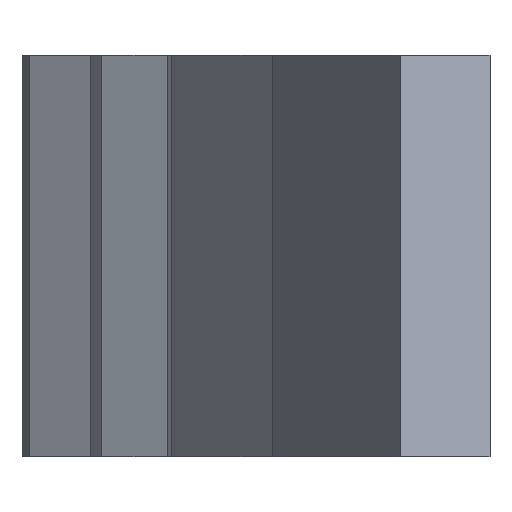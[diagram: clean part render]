
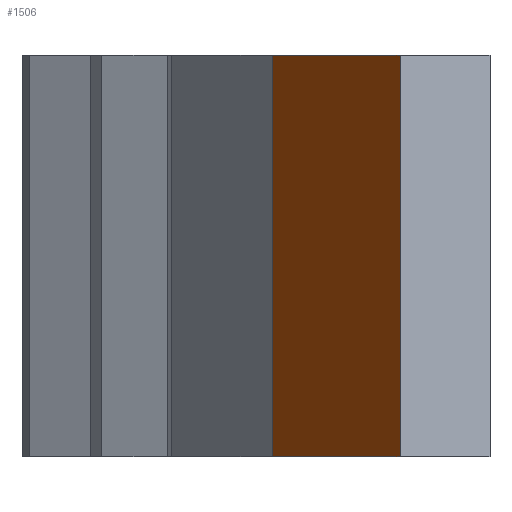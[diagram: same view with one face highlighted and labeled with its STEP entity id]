
A CAD part, left-side view. The second image highlights one B-rep face of the part: STEP entity #1506.
In plain terms, the highlighted planar face has unit normal (-0.54, 0.842, 0).
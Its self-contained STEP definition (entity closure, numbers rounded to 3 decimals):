
#96=PLANE('',#1590);
#168=FACE_OUTER_BOUND('',#252,.T.);
#252=EDGE_LOOP('',(#1429,#1430,#1431,#1432));
#280=LINE('',#2036,#480);
#311=LINE('',#2097,#511);
#349=LINE('',#2173,#549);
#434=LINE('',#2334,#634);
#480=VECTOR('',#1662,10.);
#511=VECTOR('',#1701,10.);
#549=VECTOR('',#1745,10.);
#634=VECTOR('',#1884,10.);
#691=VERTEX_POINT('',#2032);
#692=VERTEX_POINT('',#2034);
#718=VERTEX_POINT('',#2095);
#753=VERTEX_POINT('',#2172);
#840=EDGE_CURVE('',#692,#691,#280,.T.);
#871=EDGE_CURVE('',#718,#692,#311,.T.);
#909=EDGE_CURVE('',#691,#753,#349,.T.);
#994=EDGE_CURVE('',#753,#718,#434,.T.);
#1429=ORIENTED_EDGE('',*,*,#994,.F.);
#1430=ORIENTED_EDGE('',*,*,#909,.F.);
#1431=ORIENTED_EDGE('',*,*,#840,.F.);
#1432=ORIENTED_EDGE('',*,*,#871,.F.);
#1506=ADVANCED_FACE('',(#168),#96,.T.);
#1590=AXIS2_PLACEMENT_3D('',#2379,#1955,#1956);
#1662=DIRECTION('',(0.,0.,-1.));
#1701=DIRECTION('',(-0.841,-0.54,0.));
#1745=DIRECTION('',(0.841,0.54,0.));
#1884=DIRECTION('',(0.,0.,1.));
#1955=DIRECTION('center_axis',(-0.54,0.841,0.));
#1956=DIRECTION('ref_axis',(-0.841,-0.54,0.));
#2032=CARTESIAN_POINT('',(46.696,28.444,-10.5));
#2034=CARTESIAN_POINT('',(46.696,28.444,4.5));
#2036=CARTESIAN_POINT('',(46.696,28.444,-10.5));
#2095=CARTESIAN_POINT('',(54.137,33.222,4.5));
#2097=CARTESIAN_POINT('',(48.379,29.524,4.5));
#2172=CARTESIAN_POINT('',(54.137,33.222,-10.5));
#2173=CARTESIAN_POINT('',(48.379,29.524,-10.5));
#2334=CARTESIAN_POINT('',(54.137,33.222,-3.));
#2379=CARTESIAN_POINT('Origin',(54.558,33.492,-10.5));
